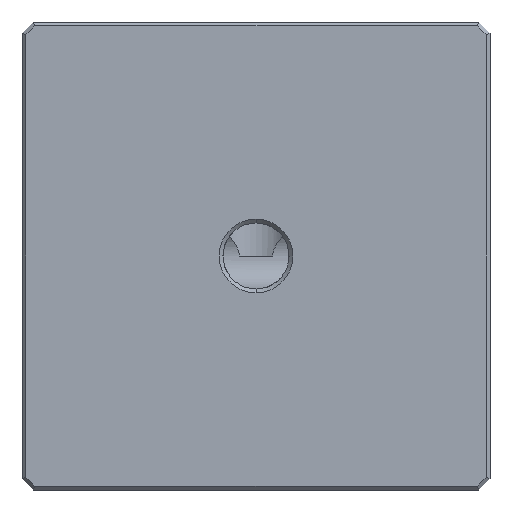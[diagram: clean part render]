
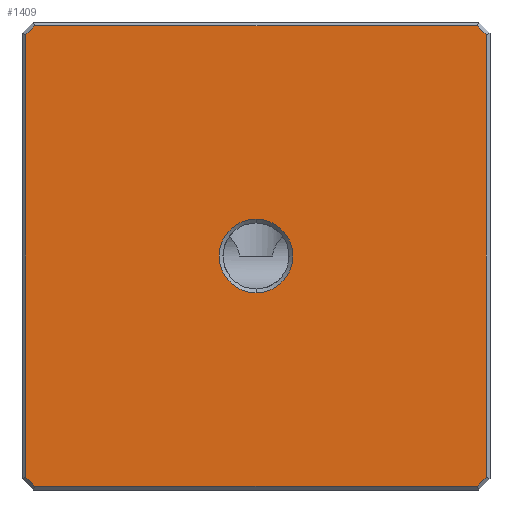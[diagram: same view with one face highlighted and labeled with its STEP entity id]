
A CAD part, front view. The second image highlights one B-rep face of the part: STEP entity #1409.
In plain terms, the highlighted planar face has unit normal (0, -1, 0).
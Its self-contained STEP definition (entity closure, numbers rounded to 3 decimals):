
#22 = VECTOR ( 'NONE', #4856, 1000. ) ;
#249 = DIRECTION ( 'NONE',  ( 0., 1., 0. ) ) ;
#562 = VERTEX_POINT ( 'NONE', #2946 ) ;
#564 = ORIENTED_EDGE ( 'NONE', *, *, #696, .T. ) ;
#581 = LINE ( 'NONE', #3012, #4850 ) ;
#599 = CARTESIAN_POINT ( 'NONE',  ( -41.8, 0., -40.21 ) ) ;
#616 = CARTESIAN_POINT ( 'NONE',  ( 40.21, 0., 41.8 ) ) ;
#634 = EDGE_CURVE ( 'NONE', #909, #1790, #4741, .T. ) ;
#680 = DIRECTION ( 'NONE',  ( 0., 0., -1. ) ) ;
#696 = EDGE_CURVE ( 'NONE', #562, #2170, #2529, .T. ) ;
#765 = ORIENTED_EDGE ( 'NONE', *, *, #4444, .T. ) ;
#819 = VECTOR ( 'NONE', #1386, 1000. ) ;
#887 = LINE ( 'NONE', #3702, #22 ) ;
#899 = CARTESIAN_POINT ( 'NONE',  ( -41.005, 0., -41.005 ) ) ;
#909 = VERTEX_POINT ( 'NONE', #4456 ) ;
#930 = DIRECTION ( 'NONE',  ( 1., 0., 0. ) ) ;
#952 = AXIS2_PLACEMENT_3D ( 'NONE', #2701, #3430, #680 ) ;
#997 = PLANE ( 'NONE',  #3016 ) ;
#1023 = ORIENTED_EDGE ( 'NONE', *, *, #634, .T. ) ;
#1066 = VECTOR ( 'NONE', #1888, 1000. ) ;
#1085 = EDGE_CURVE ( 'NONE', #1707, #909, #887, .T. ) ;
#1134 = CARTESIAN_POINT ( 'NONE',  ( 0., 0., 0. ) ) ;
#1143 = VECTOR ( 'NONE', #930, 1000. ) ;
#1150 = LINE ( 'NONE', #5131, #3781 ) ;
#1177 = DIRECTION ( 'NONE',  ( -0.707, 0., 0.707 ) ) ;
#1302 = ORIENTED_EDGE ( 'NONE', *, *, #3730, .T. ) ;
#1306 = EDGE_LOOP ( 'NONE', ( #765, #4738 ) ) ;
#1324 = CARTESIAN_POINT ( 'NONE',  ( 0., 0., -6.7 ) ) ;
#1329 = VERTEX_POINT ( 'NONE', #616 ) ;
#1342 = ORIENTED_EDGE ( 'NONE', *, *, #3454, .T. ) ;
#1385 = EDGE_CURVE ( 'NONE', #2170, #2053, #3815, .T. ) ;
#1386 = DIRECTION ( 'NONE',  ( 0.707, 0., 0.707 ) ) ;
#1409 = ADVANCED_FACE ( 'NONE', ( #2155, #3783 ), #997, .T. ) ;
#1420 = DIRECTION ( 'NONE',  ( -1., 0., 0. ) ) ;
#1575 = DIRECTION ( 'NONE',  ( 0.707, 0., -0.707 ) ) ;
#1707 = VERTEX_POINT ( 'NONE', #2754 ) ;
#1711 = EDGE_CURVE ( 'NONE', #2074, #1329, #1150, .T. ) ;
#1741 = DIRECTION ( 'NONE',  ( 0., 0., 1. ) ) ;
#1760 = CARTESIAN_POINT ( 'NONE',  ( 41.8, 0., 40.21 ) ) ;
#1790 = VERTEX_POINT ( 'NONE', #599 ) ;
#1830 = EDGE_LOOP ( 'NONE', ( #1342, #2390, #1023, #1302, #564, #2319, #4126, #4605 ) ) ;
#1856 = CARTESIAN_POINT ( 'NONE',  ( -42.5, 0., -42.5 ) ) ;
#1888 = DIRECTION ( 'NONE',  ( 0., 0., -1. ) ) ;
#1957 = DIRECTION ( 'NONE',  ( 0., 0., -1. ) ) ;
#2053 = VERTEX_POINT ( 'NONE', #3713 ) ;
#2074 = VERTEX_POINT ( 'NONE', #1760 ) ;
#2155 = FACE_OUTER_BOUND ( 'NONE', #1830, .T. ) ;
#2170 = VERTEX_POINT ( 'NONE', #3300 ) ;
#2243 = CARTESIAN_POINT ( 'NONE',  ( -40.5, 0., 41.8 ) ) ;
#2260 = VECTOR ( 'NONE', #1420, 1000. ) ;
#2319 = ORIENTED_EDGE ( 'NONE', *, *, #1385, .T. ) ;
#2342 = DIRECTION ( 'NONE',  ( 0., 0., -1. ) ) ;
#2390 = ORIENTED_EDGE ( 'NONE', *, *, #1085, .T. ) ;
#2529 = LINE ( 'NONE', #2555, #1143 ) ;
#2555 = CARTESIAN_POINT ( 'NONE',  ( 40.5, 0., -41.8 ) ) ;
#2701 = CARTESIAN_POINT ( 'NONE',  ( 0., 0., 0. ) ) ;
#2749 = VERTEX_POINT ( 'NONE', #4180 ) ;
#2754 = CARTESIAN_POINT ( 'NONE',  ( -40.21, 0., 41.8 ) ) ;
#2946 = CARTESIAN_POINT ( 'NONE',  ( -40.21, 0., -41.8 ) ) ;
#3012 = CARTESIAN_POINT ( 'NONE',  ( 41.8, 0., 40.5 ) ) ;
#3016 = AXIS2_PLACEMENT_3D ( 'NONE', #1856, #5095, #2342 ) ;
#3201 = CIRCLE ( 'NONE', #952, 6.7 ) ;
#3280 = LINE ( 'NONE', #899, #5075 ) ;
#3300 = CARTESIAN_POINT ( 'NONE',  ( 40.21, 0., -41.8 ) ) ;
#3421 = LINE ( 'NONE', #2243, #2260 ) ;
#3430 = DIRECTION ( 'NONE',  ( 0., 1., 0. ) ) ;
#3454 = EDGE_CURVE ( 'NONE', #1329, #1707, #3421, .T. ) ;
#3702 = CARTESIAN_POINT ( 'NONE',  ( -83.505, 0., -1.495 ) ) ;
#3713 = CARTESIAN_POINT ( 'NONE',  ( 41.8, 0., -40.21 ) ) ;
#3730 = EDGE_CURVE ( 'NONE', #1790, #562, #3280, .T. ) ;
#3781 = VECTOR ( 'NONE', #1177, 1000. ) ;
#3783 = FACE_BOUND ( 'NONE', #1306, .T. ) ;
#3815 = LINE ( 'NONE', #4181, #819 ) ;
#3991 = AXIS2_PLACEMENT_3D ( 'NONE', #1134, #249, #1957 ) ;
#4126 = ORIENTED_EDGE ( 'NONE', *, *, #5107, .T. ) ;
#4180 = CARTESIAN_POINT ( 'NONE',  ( 0., 0., 6.7 ) ) ;
#4181 = CARTESIAN_POINT ( 'NONE',  ( -1.495, 0., -83.505 ) ) ;
#4444 = EDGE_CURVE ( 'NONE', #5057, #2749, #3201, .T. ) ;
#4456 = CARTESIAN_POINT ( 'NONE',  ( -41.8, 0., 40.21 ) ) ;
#4605 = ORIENTED_EDGE ( 'NONE', *, *, #1711, .T. ) ;
#4738 = ORIENTED_EDGE ( 'NONE', *, *, #4919, .T. ) ;
#4741 = LINE ( 'NONE', #5121, #1066 ) ;
#4850 = VECTOR ( 'NONE', #1741, 1000. ) ;
#4856 = DIRECTION ( 'NONE',  ( -0.707, 0., -0.707 ) ) ;
#4919 = EDGE_CURVE ( 'NONE', #2749, #5057, #4931, .T. ) ;
#4931 = CIRCLE ( 'NONE', #3991, 6.7 ) ;
#5057 = VERTEX_POINT ( 'NONE', #1324 ) ;
#5075 = VECTOR ( 'NONE', #1575, 1000. ) ;
#5095 = DIRECTION ( 'NONE',  ( 0., -1., 0. ) ) ;
#5107 = EDGE_CURVE ( 'NONE', #2053, #2074, #581, .T. ) ;
#5121 = CARTESIAN_POINT ( 'NONE',  ( -41.8, 0., -40.5 ) ) ;
#5131 = CARTESIAN_POINT ( 'NONE',  ( 41.005, 0., 41.005 ) ) ;
